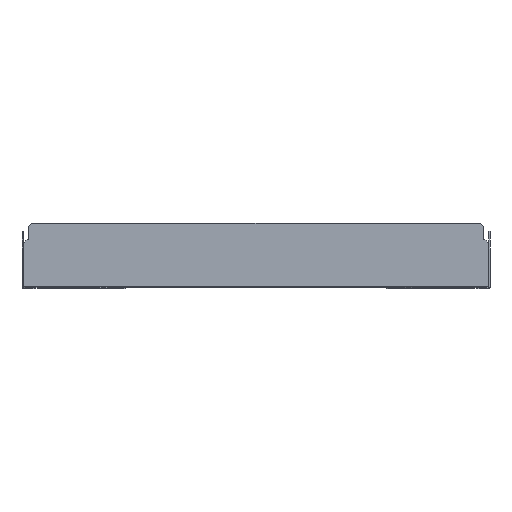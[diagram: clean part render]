
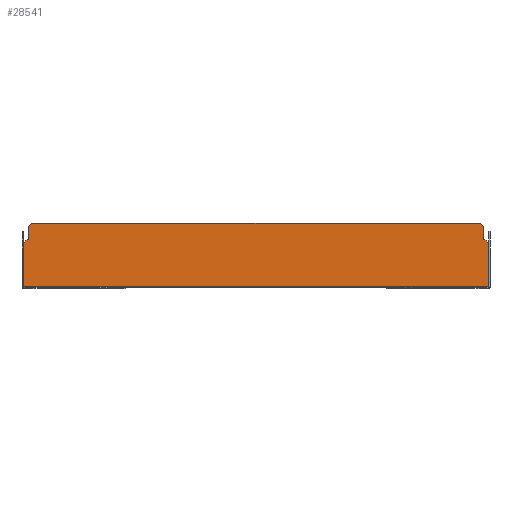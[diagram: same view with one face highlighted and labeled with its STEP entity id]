
A CAD part, front view. The second image highlights one B-rep face of the part: STEP entity #28541.
In plain terms, the highlighted planar face has unit normal (0, -1, 0).
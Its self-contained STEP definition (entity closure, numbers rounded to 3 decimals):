
#26626=CARTESIAN_POINT(' ',(347.5,-1.5,0.6));
#26627=VERTEX_POINT(' ',#26626);
#26641=CARTESIAN_POINT(' ',(347.5,-1.5,0.6));
#26646=DIRECTION(' ',(-1.,0.,0.));
#26651=VECTOR(' ',#26646,1.);
#26656=LINE('',#26641,#26651);
#26661=CARTESIAN_POINT(' ',(-347.5,-1.5,0.6));
#26662=VERTEX_POINT(' ',#26661);
#26666=EDGE_CURVE(' ',#26627,#26662,#26656,.T.);
#26806=CARTESIAN_POINT(' ',(347.5,-1.5,65.5));
#26807=VERTEX_POINT(' ',#26806);
#26821=CARTESIAN_POINT(' ',(347.5,-1.5,65.5));
#26826=DIRECTION(' ',(0.,0.,-1.));
#26831=VECTOR(' ',#26826,1.);
#26836=LINE('',#26821,#26831);
#26841=EDGE_CURVE(' ',#26807,#26627,#26836,.T.);
#27611=CARTESIAN_POINT(' ',(-347.5,-1.5,0.6));
#27616=DIRECTION(' ',(0.,0.,1.));
#27621=VECTOR(' ',#27616,1.);
#27626=LINE('',#27611,#27621);
#27631=CARTESIAN_POINT(' ',(-347.5,-1.5,65.5));
#27632=VERTEX_POINT(' ',#27631);
#27636=EDGE_CURVE(' ',#26662,#27632,#27626,.T.);
#28181=DIRECTION(' ',(0.,-1.,0.));
#28186=CARTESIAN_POINT(' ',(-347.5,-1.5,95.5));
#28191=DIRECTION(' ',(0.,0.,-1.));
#28196=AXIS2_PLACEMENT_3D(' ',#28186,#28181,#28191);
#28201=PLANE('NONE',#28196);
#28206=ORIENTED_EDGE(' ',*,*,#26841,.F.);
#28211=CARTESIAN_POINT(' ',(347.5,-1.5,65.5));
#28216=DIRECTION(' ',(-0.707,0.,0.707));
#28221=VECTOR(' ',#28216,1.);
#28226=LINE('',#28211,#28221);
#28231=CARTESIAN_POINT(' ',(342.5,-1.5,70.5));
#28232=VERTEX_POINT(' ',#28231);
#28236=EDGE_CURVE(' ',#26807,#28232,#28226,.T.);
#28241=ORIENTED_EDGE(' ',*,*,#28236,.T.);
#28246=CARTESIAN_POINT(' ',(340.5,-1.5,70.5));
#28251=DIRECTION(' ',(1.,0.,0.));
#28256=VECTOR(' ',#28251,1.);
#28261=LINE('',#28246,#28256);
#28266=CARTESIAN_POINT(' ',(340.5,-1.5,70.5));
#28267=VERTEX_POINT(' ',#28266);
#28271=EDGE_CURVE(' ',#28267,#28232,#28261,.T.);
#28276=ORIENTED_EDGE(' ',*,*,#28271,.F.);
#28281=CARTESIAN_POINT(' ',(340.5,-1.5,70.5));
#28286=DIRECTION(' ',(0.,0.,1.));
#28291=VECTOR(' ',#28286,1.);
#28296=LINE('',#28281,#28291);
#28301=CARTESIAN_POINT(' ',(340.5,-1.5,90.5));
#28302=VERTEX_POINT(' ',#28301);
#28306=EDGE_CURVE(' ',#28267,#28302,#28296,.T.);
#28311=ORIENTED_EDGE(' ',*,*,#28306,.T.);
#28316=CARTESIAN_POINT(' ',(340.5,-1.5,90.5));
#28321=DIRECTION(' ',(-0.707,0.,0.707));
#28326=VECTOR(' ',#28321,1.);
#28331=LINE('',#28316,#28326);
#28336=CARTESIAN_POINT(' ',(335.5,-1.5,95.5));
#28337=VERTEX_POINT(' ',#28336);
#28341=EDGE_CURVE(' ',#28302,#28337,#28331,.T.);
#28346=ORIENTED_EDGE(' ',*,*,#28341,.T.);
#28351=CARTESIAN_POINT(' ',(335.5,-1.5,95.5));
#28356=DIRECTION(' ',(-1.,0.,0.));
#28361=VECTOR(' ',#28356,1.);
#28366=LINE('',#28351,#28361);
#28371=CARTESIAN_POINT(' ',(-335.5,-1.5,95.5));
#28372=VERTEX_POINT(' ',#28371);
#28376=EDGE_CURVE(' ',#28337,#28372,#28366,.T.);
#28381=ORIENTED_EDGE(' ',*,*,#28376,.T.);
#28386=CARTESIAN_POINT(' ',(-335.5,-1.5,95.5));
#28391=DIRECTION(' ',(-0.707,0.,-0.707));
#28396=VECTOR(' ',#28391,1.);
#28401=LINE('',#28386,#28396);
#28406=CARTESIAN_POINT(' ',(-340.5,-1.5,90.5));
#28407=VERTEX_POINT(' ',#28406);
#28411=EDGE_CURVE(' ',#28372,#28407,#28401,.T.);
#28416=ORIENTED_EDGE(' ',*,*,#28411,.T.);
#28421=CARTESIAN_POINT(' ',(-340.5,-1.5,70.5));
#28426=DIRECTION(' ',(0.,0.,1.));
#28431=VECTOR(' ',#28426,1.);
#28436=LINE('',#28421,#28431);
#28441=CARTESIAN_POINT(' ',(-340.5,-1.5,70.5));
#28442=VERTEX_POINT(' ',#28441);
#28446=EDGE_CURVE(' ',#28442,#28407,#28436,.T.);
#28451=ORIENTED_EDGE(' ',*,*,#28446,.F.);
#28456=CARTESIAN_POINT(' ',(-340.5,-1.5,70.5));
#28461=DIRECTION(' ',(-1.,0.,0.));
#28466=VECTOR(' ',#28461,1.);
#28471=LINE('',#28456,#28466);
#28476=CARTESIAN_POINT(' ',(-342.5,-1.5,70.5));
#28477=VERTEX_POINT(' ',#28476);
#28481=EDGE_CURVE(' ',#28442,#28477,#28471,.T.);
#28486=ORIENTED_EDGE(' ',*,*,#28481,.T.);
#28491=CARTESIAN_POINT(' ',(-342.5,-1.5,70.5));
#28496=DIRECTION(' ',(-0.707,0.,-0.707));
#28501=VECTOR(' ',#28496,1.);
#28506=LINE('',#28491,#28501);
#28511=EDGE_CURVE(' ',#28477,#27632,#28506,.T.);
#28516=ORIENTED_EDGE(' ',*,*,#28511,.T.);
#28521=ORIENTED_EDGE(' ',*,*,#27636,.F.);
#28526=ORIENTED_EDGE(' ',*,*,#26666,.F.);
#28531=EDGE_LOOP(' ',(#28206,#28241,#28276,#28311,#28346,#28381,#28416,#28451,#28486,#28516,#28521,#28526));
#28536=FACE_OUTER_BOUND(' ',#28531,.T.);
#28541=ADVANCED_FACE('NONE',(#28536),#28201,.T.);
